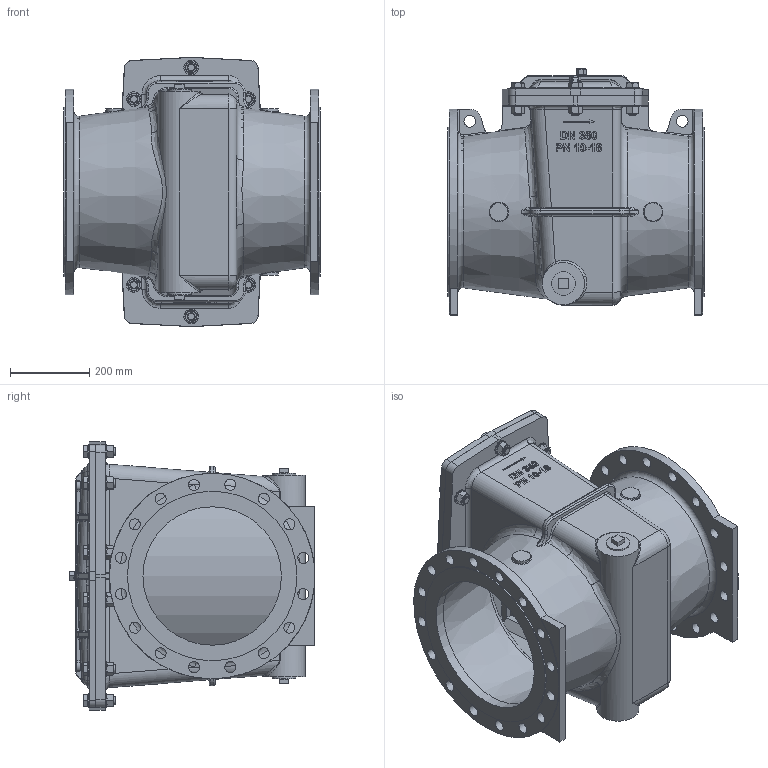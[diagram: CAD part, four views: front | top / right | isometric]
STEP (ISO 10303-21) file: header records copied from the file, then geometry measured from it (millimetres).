
FILE_DESCRIPTION(/* description */ ('DN 350 / PN 16'),/* implementation_level */ '2;1');
FILE_NAME(/* name */ 'G:\Doc_Liberes\SymbolesCAD\Modeles_3D\FichierSTP\Aqua\Aqua90501\FAB350_16.stp',/* time_stamp */ '2017-11-27T08:58:00+01:00',/* author */ ('Cédric'),/* organization */ (''),/* preprocessor_version */ 'ST-DEVELOPER v16.13',/* originating_system */ 'Autodesk Inventor 2018',/* authorisation */ '');
FILE_SCHEMA (('AUTOMOTIVE_DESIGN { 1 0 10303 214 3 1 1 }'));
Length unit declared in the file: millimetre
Products named in the file (15): *CTA90501G13502-KCO; 58080-46; 58078-40; 58079; 58079prot; 58079tam; 57576-02; 57576-07; 57507; 58077-40; 300656-12; ISO 4017 - M20 x 70; ISO 7089 - 20 - 140 HV; ISO 4032 - M20; DIN EN 10242 Bouchon mâle plat T8 2
Assembly tree (52 placements, depth 3):
  *CTA90501G13502-KCO
    58080-46
    58078-40
    58079
      58079prot
      58079tam
    ISO 7089 - 20 - 140 HV  x20
    ISO 4032 - M20  x10
    ISO 4017 - M20 x 70  x10
    57576-02
      57576-07
      57507
    58077-40
    300656-12
    DIN EN 10242 Bouchon mâle plat T8 2  x2
Bounding box: 650 x 622 x 680 mm (x, y, z)
Volume: 33458495.4 mm3; surface area: 4972631.4 mm2
Topology: 50 solids, 50 shells, 3120 faces, 7826 edges, 4824 vertices
Faces by surface type: plane 1287, cylinder 836, bspline 614, torus 243, cone 140
Full cylindrical faces by diameter (mm): 1.6 x1, 2.3 x1, 6.5 x1, 6.92 x1, 8 x1, 10 x4, 10.11 x2, 14 x1, 17.294 x10, 18.63 x1, 20 x10, 20.955 x1, 21 x20, 22 x20, 28 x32, 28.19 x10, 30 x2, 37 x20, 46 x3, 56.66 x2, 350 x2, 429 x2, 520 x2
Entity records: 101584 total; most frequent: CARTESIAN_POINT 37341, ORIENTED_EDGE 13738, DIRECTION 12192, EDGE_CURVE 6869, AXIS2_PLACEMENT_3D 4376, VERTEX_POINT 4281, LINE 3440, VECTOR 3440
